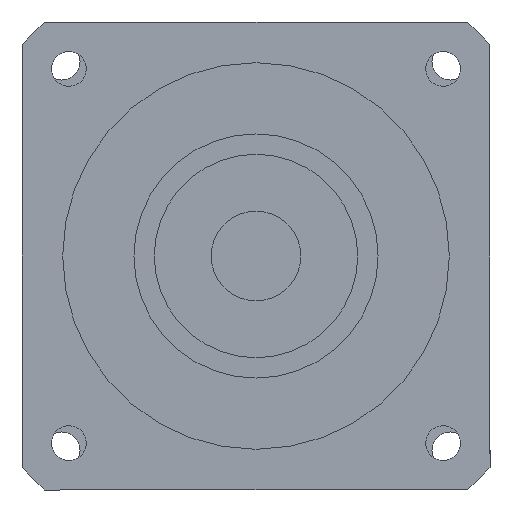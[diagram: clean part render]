
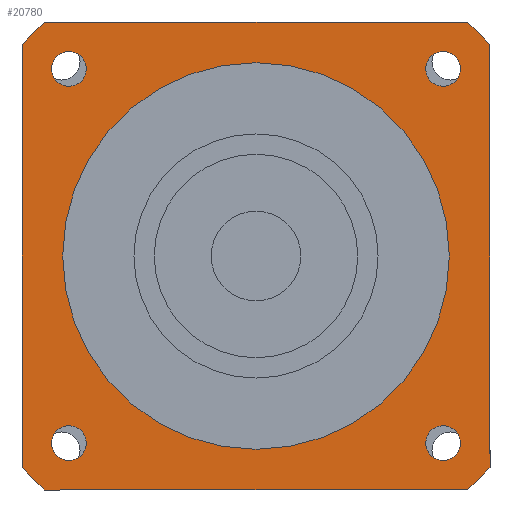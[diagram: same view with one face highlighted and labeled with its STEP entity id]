
A CAD part, left-side view. The second image highlights one B-rep face of the part: STEP entity #20780.
In plain terms, the highlighted planar face has unit normal (-1, 0, 0) as drawn and (0, 0, -1) by its records, which use the part's own axes.
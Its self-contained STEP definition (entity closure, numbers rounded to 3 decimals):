
#15990=CARTESIAN_POINT('',(-57.5,51.962,-120.));
#16000=VERTEX_POINT('',#15990);
#16150=CARTESIAN_POINT('',(-57.5,-51.962,-120.));
#16160=VERTEX_POINT('',#16150);
#16190=CARTESIAN_POINT('',(-57.5,57.5,-120.));
#16200=DIRECTION('',(0.,-1.,0.));
#16210=VECTOR('',#16200,1000.);
#16220=LINE('',#16190,#16210);
#16230=EDGE_CURVE('',#16000,#16160,#16220,.T.);
#16470=CARTESIAN_POINT('',(-51.962,-57.5,-120.));
#16480=VERTEX_POINT('',#16470);
#16510=CARTESIAN_POINT('',(0.,0.,
-120.));
#16520=DIRECTION('',(0.,0.,1.));
#16530=DIRECTION('',(0.,-1.,0.));
#16540=AXIS2_PLACEMENT_3D('',#16510,#16520,#16530);
#16550=CIRCLE('',#16540,77.5);
#16560=EDGE_CURVE('',#16160,#16480,#16550,.T.);
#18370=CARTESIAN_POINT('',(-51.962,57.5,-120.));
#18380=VERTEX_POINT('',#18370);
#18430=CARTESIAN_POINT('',(0.,0.,
-120.));
#18440=DIRECTION('',(0.,0.,1.));
#18450=DIRECTION('',(0.,-1.,0.));
#18460=AXIS2_PLACEMENT_3D('',#18430,#18440,#18450);
#18470=CIRCLE('',#18460,77.5);
#18480=EDGE_CURVE('',#18380,#16000,#18470,.T.);
#18620=CARTESIAN_POINT('',(51.962,57.5,-120.));
#18630=VERTEX_POINT('',#18620);
#18680=CARTESIAN_POINT('',(57.5,57.5,-120.));
#18690=DIRECTION('',(-1.,0.,0.));
#18700=VECTOR('',#18690,1000.);
#18710=LINE('',#18680,#18700);
#18720=EDGE_CURVE('',#18630,#18380,#18710,.T.);
#18830=CARTESIAN_POINT('',(0.,0.,
-120.));
#18840=DIRECTION('',(0.,0.,1.));
#18850=DIRECTION('',(0.,-1.,0.));
#18860=AXIS2_PLACEMENT_3D('',#18830,#18840,#18850);
#18870=CIRCLE('',#18860,77.5);
#18880=CARTESIAN_POINT('',(57.5,51.962,-120.));
#18890=VERTEX_POINT('',#18880);
#18900=EDGE_CURVE('',#18890,#18630,#18870,.T.);
#19110=CARTESIAN_POINT('',(57.5,-51.962,-120.));
#19120=VERTEX_POINT('',#19110);
#19170=CARTESIAN_POINT('',(57.5,-57.5,-120.));
#19180=DIRECTION('',(0.,1.,0.));
#19190=VECTOR('',#19180,1000.);
#19200=LINE('',#19170,#19190);
#19210=EDGE_CURVE('',#19120,#18890,#19200,.T.);
#19350=CARTESIAN_POINT('',(51.962,-57.5,-120.));
#19360=VERTEX_POINT('',#19350);
#19410=CARTESIAN_POINT('',(0.,0.,
-120.));
#19420=DIRECTION('',(0.,0.,1.));
#19430=DIRECTION('',(0.,-1.,0.));
#19440=AXIS2_PLACEMENT_3D('',#19410,#19420,#19430);
#19450=CIRCLE('',#19440,77.5);
#19460=EDGE_CURVE('',#19360,#19120,#19450,.T.);
#19590=CARTESIAN_POINT('',(-57.5,-57.5,-120.));
#19600=DIRECTION('',(1.,0.,0.));
#19610=VECTOR('',#19600,1000.);
#19620=LINE('',#19590,#19610);
#19630=EDGE_CURVE('',#16480,#19360,#19620,.T.);
#19680=CARTESIAN_POINT('',(-57.5,57.5,-120.));
#19690=DIRECTION('',(0.,0.,1.));
#19700=DIRECTION('',(-1.,0.,0.));
#19710=AXIS2_PLACEMENT_3D('',#19680,#19690,#19700);
#19720=PLANE('',#19710);
#19730=CARTESIAN_POINT('',(45.962,-45.962,-120.));
#19740=DIRECTION('',(0.,0.,-1.));
#19750=DIRECTION('',(1.,0.,0.));
#19760=AXIS2_PLACEMENT_3D('',#19730,#19740,#19750);
#19770=CIRCLE('',#19760,4.25);
#19780=CARTESIAN_POINT('',(50.212,-45.962,-120.));
#19790=VERTEX_POINT('',#19780);
#19800=CARTESIAN_POINT('',(45.962,-50.212,-120.));
#19810=VERTEX_POINT('',#19800);
#19820=EDGE_CURVE('',#19790,#19810,#19770,.T.);
#19830=ORIENTED_EDGE('',*,*,#19820,.F.);
#19840=CARTESIAN_POINT('',(45.962,-41.712,-120.));
#19850=VERTEX_POINT('',#19840);
#19860=EDGE_CURVE('',#19810,#19850,#19770,.T.);
#19870=ORIENTED_EDGE('',*,*,#19860,.F.);
#19880=EDGE_CURVE('',#19850,#19790,#19770,.T.);
#19890=ORIENTED_EDGE('',*,*,#19880,.F.);
#19900=EDGE_LOOP('',(#19890,#19870,#19830));
#19910=FACE_BOUND('',#19900,.T.);
#19920=CARTESIAN_POINT('',(45.962,45.962,-120.));
#19930=DIRECTION('',(0.,0.,-1.));
#19940=DIRECTION('',(0.,1.,0.));
#19950=AXIS2_PLACEMENT_3D('',#19920,#19930,#19940);
#19960=CIRCLE('',#19950,4.25);
#19970=CARTESIAN_POINT('',(45.962,50.212,-120.));
#19980=VERTEX_POINT('',#19970);
#19990=CARTESIAN_POINT('',(50.212,45.962,-120.));
#20000=VERTEX_POINT('',#19990);
#20010=EDGE_CURVE('',#19980,#20000,#19960,.T.);
#20020=ORIENTED_EDGE('',*,*,#20010,.F.);
#20030=CARTESIAN_POINT('',(41.712,45.962,-120.));
#20040=VERTEX_POINT('',#20030);
#20050=EDGE_CURVE('',#20000,#20040,#19960,.T.);
#20060=ORIENTED_EDGE('',*,*,#20050,.F.);
#20070=EDGE_CURVE('',#20040,#19980,#19960,.T.);
#20080=ORIENTED_EDGE('',*,*,#20070,.F.);
#20090=EDGE_LOOP('',(#20080,#20060,#20020));
#20100=FACE_BOUND('',#20090,.T.);
#20110=CARTESIAN_POINT('',(-45.962,45.962,-120.));
#20120=DIRECTION('',(0.,0.,-1.));
#20130=DIRECTION('',(-1.,0.,0.));
#20140=AXIS2_PLACEMENT_3D('',#20110,#20120,#20130);
#20150=CIRCLE('',#20140,4.25);
#20160=CARTESIAN_POINT('',(-50.212,45.962,-120.));
#20170=VERTEX_POINT('',#20160);
#20180=CARTESIAN_POINT('',(-45.962,50.212,-120.));
#20190=VERTEX_POINT('',#20180);
#20200=EDGE_CURVE('',#20170,#20190,#20150,.T.);
#20210=ORIENTED_EDGE('',*,*,#20200,.F.);
#20220=CARTESIAN_POINT('',(-45.962,41.712,-120.));
#20230=VERTEX_POINT('',#20220);
#20240=EDGE_CURVE('',#20190,#20230,#20150,.T.);
#20250=ORIENTED_EDGE('',*,*,#20240,.F.);
#20260=EDGE_CURVE('',#20230,#20170,#20150,.T.);
#20270=ORIENTED_EDGE('',*,*,#20260,.F.);
#20280=EDGE_LOOP('',(#20270,#20250,#20210));
#20290=FACE_BOUND('',#20280,.T.);
#20300=CARTESIAN_POINT('',(-45.962,-45.962,-120.));
#20310=DIRECTION('',(0.,0.,-1.));
#20320=DIRECTION('',(0.,-1.,0.));
#20330=AXIS2_PLACEMENT_3D('',#20300,#20310,#20320);
#20340=CIRCLE('',#20330,4.25);
#20350=CARTESIAN_POINT('',(-45.962,-50.212,-120.));
#20360=VERTEX_POINT('',#20350);
#20370=CARTESIAN_POINT('',(-50.212,-45.962,-120.));
#20380=VERTEX_POINT('',#20370);
#20390=EDGE_CURVE('',#20360,#20380,#20340,.T.);
#20400=ORIENTED_EDGE('',*,*,#20390,.F.);
#20410=CARTESIAN_POINT('',(-41.712,-45.962,-120.));
#20420=VERTEX_POINT('',#20410);
#20430=EDGE_CURVE('',#20380,#20420,#20340,.T.);
#20440=ORIENTED_EDGE('',*,*,#20430,.F.);
#20450=EDGE_CURVE('',#20420,#20360,#20340,.T.);
#20460=ORIENTED_EDGE('',*,*,#20450,.F.);
#20470=EDGE_LOOP('',(#20460,#20440,#20400));
#20480=FACE_BOUND('',#20470,.T.);
#20490=ORIENTED_EDGE('',*,*,#16560,.F.);
#20500=ORIENTED_EDGE('',*,*,#19630,.F.);
#20510=ORIENTED_EDGE('',*,*,#19460,.F.);
#20520=ORIENTED_EDGE('',*,*,#19210,.F.);
#20530=ORIENTED_EDGE('',*,*,#18900,.F.);
#20540=ORIENTED_EDGE('',*,*,#18720,.F.);
#20550=ORIENTED_EDGE('',*,*,#18480,.F.);
#20560=ORIENTED_EDGE('',*,*,#16230,.F.);
#20570=EDGE_LOOP('',(#20560,#20550,#20540,#20530,#20520,#20510,#20500,
#20490));
#20580=FACE_OUTER_BOUND('',#20570,.T.);
#20590=CARTESIAN_POINT('',(0.,0.,
-120.));
#20600=DIRECTION('',(0.,0.,1.));
#20610=DIRECTION('',(0.,-1.,0.));
#20620=AXIS2_PLACEMENT_3D('',#20590,#20600,#20610);
#20630=CIRCLE('',#20620,47.5);
#20640=CARTESIAN_POINT('',(47.5,0.,-120.));
#20650=VERTEX_POINT('',#20640);
#20660=CARTESIAN_POINT('',(-47.5,0.,-120.));
#20670=VERTEX_POINT('',#20660);
#20680=EDGE_CURVE('',#20650,#20670,#20630,.T.);
#20690=ORIENTED_EDGE('',*,*,#20680,.T.);
#20700=CARTESIAN_POINT('',(0.,-47.5,-120.));
#20710=VERTEX_POINT('',#20700);
#20720=EDGE_CURVE('',#20710,#20650,#20630,.T.);
#20730=ORIENTED_EDGE('',*,*,#20720,.T.);
#20740=EDGE_CURVE('',#20670,#20710,#20630,.T.);
#20750=ORIENTED_EDGE('',*,*,#20740,.T.);
#20760=EDGE_LOOP('',(#20750,#20730,#20690));
#20770=FACE_BOUND('',#20760,.T.);
#20780=ADVANCED_FACE('',(#19910,#20100,#20290,#20480,#20580,#20770),
#19720,.F.);
